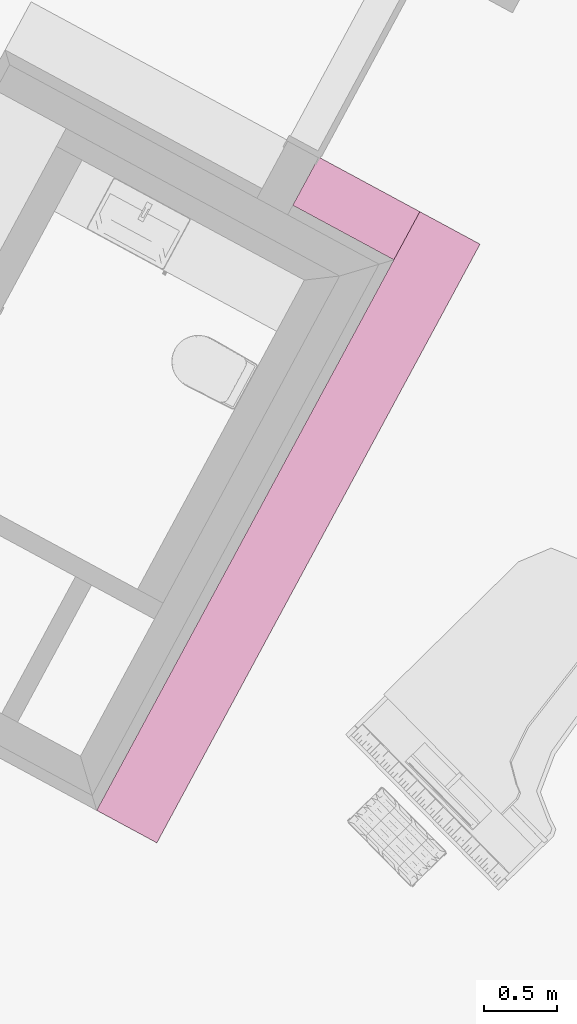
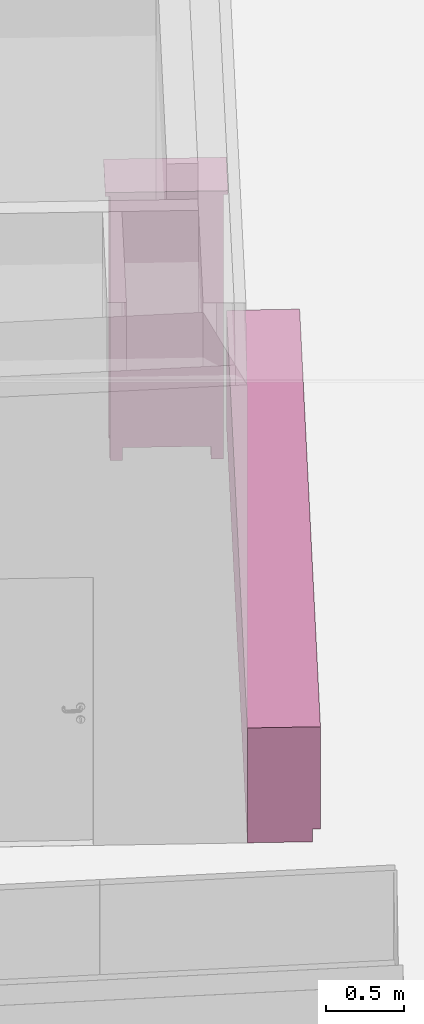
# One storey, part 31 of 36: 2 furnishings.
"""IFC2X3 building model written with IfcOpenShell, lengths in metres."""

from ifc_helpers import new_model, entity, si_unit, converted_unit, derived_unit, money_unit, direction, frame, origin_with_axes, place, context, subcontext, project, spatial, faceted_brep, type_object, element, save


model = new_model("IFC2X3")

# Units and contexts
model_context = context("Model", 3, precision=1e-05, world=origin_with_axes(), true_north=direction((0.0, 1.0)))
body_context = subcontext(model_context, "Body", "Model", "MODEL_VIEW")
ifc_project = project(units=[si_unit("LENGTHUNIT", "METRE"), si_unit("AREAUNIT", "SQUARE_METRE"), si_unit("VOLUMEUNIT", "CUBIC_METRE"), converted_unit("PLANEANGLEUNIT", "DEGREE", entity("IfcPlaneAngleMeasure", 0.0174532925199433), si_unit("PLANEANGLEUNIT", "RADIAN"), dimensions=[0, 0, 0, 0, 0, 0, 0]), money_unit("EUR"), converted_unit("TIMEUNIT", "Year", entity("IfcTimeMeasure", 31556926.0), si_unit("TIMEUNIT", "SECOND"), dimensions=[0, 0, 1, 0, 0, 0, 0]), si_unit("MASSUNIT", "GRAM", prefix="KILO"), si_unit("THERMODYNAMICTEMPERATUREUNIT", "DEGREE_CELSIUS"), si_unit("LUMINOUSINTENSITYUNIT", "LUMEN"), si_unit("ENERGYUNIT", "JOULE", prefix="MEGA"), derived_unit("THERMALCONDUCTANCEUNIT", [(si_unit("POWERUNIT", "WATT"), 1), (si_unit("LENGTHUNIT", "METRE"), -1), (si_unit("THERMODYNAMICTEMPERATUREUNIT", "KELVIN"), -1)]), derived_unit("SPECIFICHEATCAPACITYUNIT", [(si_unit("ENERGYUNIT", "JOULE"), 1), (si_unit("MASSUNIT", "GRAM", prefix="KILO"), -1), (si_unit("THERMODYNAMICTEMPERATUREUNIT", "KELVIN"), -1)]), derived_unit("MASSDENSITYUNIT", [(si_unit("MASSUNIT", "GRAM", prefix="KILO"), 1), (si_unit("VOLUMEUNIT", "CUBIC_METRE"), -1)])], contexts=[model_context])

# Site, building, storey
site_placement = place(None, frame((-3.949935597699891, 1.740105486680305, 0.0), z_axis=(0.0, 0.0, 1.0), x_axis=(0.8799804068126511, -0.475009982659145, 0.0)))
site = spatial("IfcSite", under=ifc_project, at=site_placement, Name="Gelände", CompositionType="ELEMENT")
building_placement = place(site_placement, origin_with_axes())
building = spatial("IfcBuilding", under=site, at=building_placement, Name="Gebäude", CompositionType="ELEMENT")
storey_placement = place(building_placement, origin_with_axes())
storey = spatial("IfcBuildingStorey", under=building, at=storey_placement, Name="Erdgeschoss", CompositionType="ELEMENT", Elevation=0.0)

# Furnishings
furniture_type_1 = type_object("IfcFurnitureType", Name="Konzeptküche 26", AssemblyPlace="NOTDEFINED")
furnishing_1_placement = place(storey_placement, frame((18.19651572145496, 6.560813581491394, 0.0), z_axis=(0.0, 0.0, 1.0), x_axis=(0.0, -1.0, 0.0)))
element("IfcFurnishingElement", 1, at=furnishing_1_placement, inside=storey, type_object=furniture_type_1, Name="Küche-001", ObjectType="FURNITURE", context=body_context, shape_type="Brep", body=[
    faceted_brep([(-0.818028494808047, -1.689671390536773e-05, 0.0), (3.857330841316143, 3.284217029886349e-06, 0.0), (3.857330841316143, 3.284217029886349e-06, 0.1), (-0.818028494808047, -1.689671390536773e-05, 0.1), (-0.8180303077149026, 0.419983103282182, 0.0), (3.857329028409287, 0.4200032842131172, 0.0), (3.857329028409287, 0.4200032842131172, 0.1), (-0.8180303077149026, 0.419983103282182, 0.1)], [[[0, 1, 2, 3]], [[0, 4, 5, 1]], [[1, 5, 6, 2]], [[3, 2, 6, 7]], [[4, 0, 3, 7]], [[5, 4, 7, 6]]]),
    faceted_brep([(-0.818028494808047, -1.689671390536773e-05, 0.86), (3.857330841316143, 3.284217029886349e-06, 0.86), (3.857330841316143, 3.284217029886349e-06, 0.9), (-0.818028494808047, -1.689671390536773e-05, 0.9), (-0.8180305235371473, 0.4699831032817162, 0.86), (3.857328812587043, 0.4700032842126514, 0.86), (3.857328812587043, 0.4700032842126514, 0.9), (-0.8180305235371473, 0.4699831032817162, 0.9)], [[[0, 1, 2, 3]], [[0, 4, 5, 1]], [[1, 5, 6, 2]], [[3, 2, 6, 7]], [[4, 0, 3, 7]], [[5, 4, 7, 6]]]),
    faceted_brep([(-0.818028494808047, -1.689671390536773e-05, 0.1), (3.857330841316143, 3.284217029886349e-06, 0.1), (3.857330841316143, 3.284217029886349e-06, 0.86), (-0.818028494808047, -1.689671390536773e-05, 0.86), (-0.8180305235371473, 0.4699831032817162, 0.1), (3.857328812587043, 0.4700032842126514, 0.1), (3.857328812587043, 0.4700032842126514, 0.86), (-0.8180305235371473, 0.4699831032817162, 0.86)], [[[0, 1, 2, 3]], [[0, 4, 5, 1]], [[1, 5, 6, 2]], [[3, 2, 6, 7]], [[4, 0, 3, 7]], [[5, 4, 7, 6]]]),
])
furniture_type_2 = type_object("IfcFurnitureType", Name="Kleiderschrank 22", AssemblyPlace="NOTDEFINED")
furnishing_2_placement = place(storey_placement, frame((18.19650044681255, 7.378842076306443, 0.0), z_axis=(0.0, 0.0, 1.0), x_axis=(-1.0, 0.0, 0.0)))
element("IfcFurnishingElement", 2, at=furnishing_2_placement, inside=storey, type_object=furniture_type_2, Name="Objekt-0067", ObjectType="FURNITURE", context=body_context, shape_type="Brep", body=[
    faceted_brep([(0.05000000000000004, 0.3757887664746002, 0.12), (0.05000000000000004, 0.3557887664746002, 0.12), (0.05000000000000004, 0.3557887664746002, 2.05), (0.05000000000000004, 0.3757887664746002, 2.05), (0.7390121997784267, 0.3757887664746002, 0.12), (0.7390121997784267, 0.3557887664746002, 0.12), (0.7390121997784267, 0.3557887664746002, 2.05), (0.7390121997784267, 0.3757887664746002, 2.05)], [[[0, 1, 2, 3]], [[0, 4, 5, 1]], [[1, 5, 6, 2]], [[3, 2, 6, 7]], [[4, 0, 3, 7]], [[5, 4, 7, 6]]]),
    faceted_brep([(0.7590121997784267, 0.05000000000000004, 0.1), (0.7390121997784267, 0.05000000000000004, 0.1), (0.7390121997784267, 0.3757887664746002, 0.1), (0.7590121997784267, 0.3757887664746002, 0.1), (0.7590121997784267, 0.05000000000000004, 2.07), (0.7390121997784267, 0.05000000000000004, 2.07), (0.7390121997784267, 0.3757887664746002, 2.07), (0.7590121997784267, 0.3757887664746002, 2.07)], [[[0, 1, 2, 3]], [[1, 0, 4, 5]], [[2, 1, 5, 6]], [[3, 2, 6, 7]], [[0, 3, 7, 4]], [[5, 4, 7, 6]]]),
    faceted_brep([(0.05000000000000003, 0.05000000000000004, 0.1), (0.03000000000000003, 0.05000000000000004, 0.1), (0.03000000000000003, 0.3757887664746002, 0.1), (0.05000000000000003, 0.3757887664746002, 0.1), (0.05000000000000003, 0.05000000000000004, 2.07), (0.03000000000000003, 0.05000000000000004, 2.07), (0.03000000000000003, 0.3757887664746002, 2.07), (0.05000000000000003, 0.3757887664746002, 2.07)], [[[0, 1, 2, 3]], [[1, 0, 4, 5]], [[2, 1, 5, 6]], [[3, 2, 6, 7]], [[0, 3, 7, 4]], [[5, 4, 7, 6]]]),
    faceted_brep([(0.7390121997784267, 0.05000000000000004, 0.1), (0.05000000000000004, 0.05000000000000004, 0.1), (0.05000000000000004, 0.3757887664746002, 0.1), (0.7390121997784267, 0.3757887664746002, 0.1), (0.7390121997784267, 0.05000000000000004, 0.12), (0.05000000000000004, 0.05000000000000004, 0.12), (0.05000000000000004, 0.3757887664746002, 0.12), (0.7390121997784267, 0.3757887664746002, 0.12)], [[[0, 1, 2, 3]], [[1, 0, 4, 5]], [[2, 1, 5, 6]], [[3, 2, 6, 7]], [[0, 3, 7, 4]], [[5, 4, 7, 6]]]),
    faceted_brep([(0.7390121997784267, 0.05000000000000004, 2.05), (0.05000000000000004, 0.05000000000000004, 2.05), (0.05000000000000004, 0.3757887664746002, 2.05), (0.7390121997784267, 0.3757887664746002, 2.05), (0.7390121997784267, 0.05000000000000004, 2.07), (0.05000000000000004, 0.05000000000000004, 2.07), (0.05000000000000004, 0.3757887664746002, 2.07), (0.7390121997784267, 0.3757887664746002, 2.07)], [[[0, 1, 2, 3]], [[1, 0, 4, 5]], [[2, 1, 5, 6]], [[3, 2, 6, 7]], [[0, 3, 7, 4]], [[5, 4, 7, 6]]]),
    faceted_brep([(0.7890121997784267, 0.3757887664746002, 2.07), (0.7890121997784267, 0.3757887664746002, 2.1), (0.7890121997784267, 0.0, 2.1), (0.7890121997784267, 0.0, 2.07), (0.0, 0.3757887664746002, 2.07), (0.0, 0.3757887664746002, 2.1), (0.0, 0.0, 2.1), (0.0, 0.0, 2.07)], [[[0, 1, 2, 3]], [[4, 5, 1, 0]], [[1, 5, 6, 2]], [[3, 2, 6, 7]], [[0, 3, 7, 4]], [[7, 6, 5, 4]]]),
    faceted_brep([(0.11, 0.2957887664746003, 0.0), (0.11, 0.3757887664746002, 0.0), (0.11, 0.3757887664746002, 0.1), (0.11, 0.2957887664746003, 0.1), (0.03000000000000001, 0.2957887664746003, 0.0), (0.03000000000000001, 0.3757887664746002, 0.0), (0.03000000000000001, 0.3757887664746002, 0.1), (0.03000000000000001, 0.2957887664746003, 0.1)], [[[0, 1, 2, 3]], [[0, 4, 5, 1]], [[1, 5, 6, 2]], [[3, 2, 6, 7]], [[4, 0, 3, 7]], [[5, 4, 7, 6]]]),
    faceted_brep([(0.7590121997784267, 0.2957887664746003, 0.0), (0.7590121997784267, 0.3757887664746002, 0.0), (0.7590121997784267, 0.3757887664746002, 0.1), (0.7590121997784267, 0.2957887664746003, 0.1), (0.6790121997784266, 0.2957887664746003, 0.0), (0.6790121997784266, 0.3757887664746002, 0.0), (0.6790121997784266, 0.3757887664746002, 0.1), (0.6790121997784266, 0.2957887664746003, 0.1)], [[[0, 1, 2, 3]], [[0, 4, 5, 1]], [[1, 5, 6, 2]], [[3, 2, 6, 7]], [[4, 0, 3, 7]], [[5, 4, 7, 6]]]),
    faceted_brep([(0.11, 0.05000000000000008, 0.0), (0.11, 0.1300000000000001, 0.0), (0.11, 0.1300000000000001, 0.1), (0.11, 0.05000000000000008, 0.1), (0.03000000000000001, 0.05000000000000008, 0.0), (0.03000000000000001, 0.1300000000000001, 0.0), (0.03000000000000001, 0.1300000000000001, 0.1), (0.03000000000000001, 0.05000000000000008, 0.1)], [[[0, 1, 2, 3]], [[0, 4, 5, 1]], [[1, 5, 6, 2]], [[3, 2, 6, 7]], [[4, 0, 3, 7]], [[5, 4, 7, 6]]]),
    faceted_brep([(0.7590121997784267, 0.05000000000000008, 0.0), (0.7590121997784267, 0.1300000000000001, 0.0), (0.7590121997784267, 0.1300000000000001, 0.1), (0.7590121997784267, 0.05000000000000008, 0.1), (0.6790121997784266, 0.05000000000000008, 0.0), (0.6790121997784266, 0.1300000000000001, 0.0), (0.6790121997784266, 0.1300000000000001, 0.1), (0.6790121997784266, 0.05000000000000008, 0.1)], [[[0, 1, 2, 3]], [[0, 4, 5, 1]], [[1, 5, 6, 2]], [[3, 2, 6, 7]], [[4, 0, 3, 7]], [[5, 4, 7, 6]]]),
    faceted_brep([(0.04050000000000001, 0.05, 0.1104999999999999), (0.3940060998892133, 0.05, 0.1104999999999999), (0.3940060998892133, 0.03, 0.1104999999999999), (0.04050000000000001, 0.03, 0.1104999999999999), (0.04050000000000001, 0.05000000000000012, 2.0595), (0.3940060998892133, 0.05000000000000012, 2.0595), (0.3940060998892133, 0.03000000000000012, 2.0595), (0.04050000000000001, 0.03000000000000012, 2.0595)], [[[0, 1, 2, 3]], [[0, 4, 5, 1]], [[1, 5, 6, 2]], [[3, 2, 6, 7]], [[4, 0, 3, 7]], [[5, 4, 7, 6]]]),
    faceted_brep([(0.3314323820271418, 0.03, 0.955), (0.3314323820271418, 0.03, 0.965), (0.3435045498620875, 0.03, 0.965), (0.3435045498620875, 0.03, 0.955), (0.3203312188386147, 0.01914952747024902, 0.965), (0.3203312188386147, 0.01914952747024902, 0.955), (0.266680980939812, 0.01914952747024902, 0.965), (0.2555798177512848, 0.03, 0.965), (0.2435076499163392, 0.03, 0.965), (0.2584777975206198, 0.01692943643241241, 0.965), (0.2754711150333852, 0.008772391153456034, 0.965), (0.2935060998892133, 0.006000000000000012, 0.965), (0.3115410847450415, 0.008772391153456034, 0.965), (0.3285344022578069, 0.01692943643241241, 0.965), (0.3073939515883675, 0.01232720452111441, 0.965), (0.2935060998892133, 0.009999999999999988, 0.965), (0.2796182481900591, 0.01232720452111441, 0.965), (0.3285344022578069, 0.01692943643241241, 0.955), (0.3115410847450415, 0.008772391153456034, 0.955), (0.2935060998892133, 0.006000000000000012, 0.955), (0.2754711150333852, 0.008772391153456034, 0.955), (0.2584777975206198, 0.01692943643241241, 0.955), (0.2435076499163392, 0.03, 0.955), (0.2555798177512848, 0.03, 0.955), (0.266680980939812, 0.01914952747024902, 0.955), (0.2796182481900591, 0.01232720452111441, 0.955), (0.2935060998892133, 0.009999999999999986, 0.955), (0.3073939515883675, 0.01232720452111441, 0.955)], [[[0, 1, 2, 3]], [[4, 1, 0, 5]], [[6, 7, 8, 9, 10, 11, 12, 13, 2, 1, 4, 14, 15, 16]], [[13, 17, 3, 2]], [[5, 0, 3, 17, 18, 19, 20, 21, 22, 23, 24, 25, 26, 27]], [[14, 4, 5, 27]], [[7, 6, 24, 23]], [[7, 23, 22, 8]], [[8, 22, 21, 9]], [[9, 21, 20, 10]], [[10, 20, 19, 11]], [[11, 19, 18, 12]], [[12, 18, 17, 13]], [[15, 14, 27, 26]], [[16, 15, 26, 25]], [[6, 16, 25, 24]]]),
    faceted_brep([(0.3960060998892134, 0.05, 0.1104999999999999), (0.7495121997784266, 0.05, 0.1104999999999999), (0.7495121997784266, 0.03, 0.1104999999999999), (0.3960060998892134, 0.03, 0.1104999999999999), (0.3960060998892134, 0.05000000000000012, 2.0595), (0.7495121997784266, 0.05000000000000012, 2.0595), (0.7495121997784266, 0.03000000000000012, 2.0595), (0.3960060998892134, 0.03000000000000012, 2.0595)], [[[0, 1, 2, 3]], [[0, 4, 5, 1]], [[1, 5, 6, 2]], [[3, 2, 6, 7]], [[4, 0, 3, 7]], [[5, 4, 7, 6]]]),
    faceted_brep([(0.5334323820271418, 0.03, 0.955), (0.5334323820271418, 0.03, 0.965), (0.5455045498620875, 0.03, 0.965), (0.5455045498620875, 0.03, 0.955), (0.5223312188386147, 0.01914952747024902, 0.965), (0.5223312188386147, 0.01914952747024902, 0.955), (0.468680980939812, 0.01914952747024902, 0.965), (0.4575798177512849, 0.03, 0.965), (0.4455076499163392, 0.03, 0.965), (0.4604777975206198, 0.01692943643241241, 0.965), (0.4774711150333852, 0.008772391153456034, 0.965), (0.4955060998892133, 0.006000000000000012, 0.965), (0.5135410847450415, 0.008772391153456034, 0.965), (0.5305344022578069, 0.01692943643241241, 0.965), (0.5093939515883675, 0.01232720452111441, 0.965), (0.4955060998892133, 0.009999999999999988, 0.965), (0.4816182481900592, 0.01232720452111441, 0.965), (0.5305344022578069, 0.01692943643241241, 0.955), (0.5135410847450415, 0.008772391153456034, 0.955), (0.4955060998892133, 0.006000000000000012, 0.955), (0.4774711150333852, 0.008772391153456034, 0.955), (0.4604777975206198, 0.01692943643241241, 0.955), (0.4455076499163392, 0.03, 0.955), (0.4575798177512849, 0.03, 0.955), (0.468680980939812, 0.01914952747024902, 0.955), (0.4816182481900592, 0.01232720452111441, 0.955), (0.4955060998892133, 0.009999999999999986, 0.955), (0.5093939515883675, 0.01232720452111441, 0.955)], [[[0, 1, 2, 3]], [[4, 1, 0, 5]], [[6, 7, 8, 9, 10, 11, 12, 13, 2, 1, 4, 14, 15, 16]], [[17, 3, 2, 13]], [[5, 0, 3, 17, 18, 19, 20, 21, 22, 23, 24, 25, 26, 27]], [[14, 4, 5, 27]], [[7, 6, 24, 23]], [[7, 23, 22, 8]], [[22, 21, 9, 8]], [[21, 20, 10, 9]], [[20, 19, 11, 10]], [[19, 18, 12, 11]], [[18, 17, 13, 12]], [[15, 14, 27, 26]], [[16, 15, 26, 25]], [[6, 16, 25, 24]]]),
])

save(model, "model.ifc")
